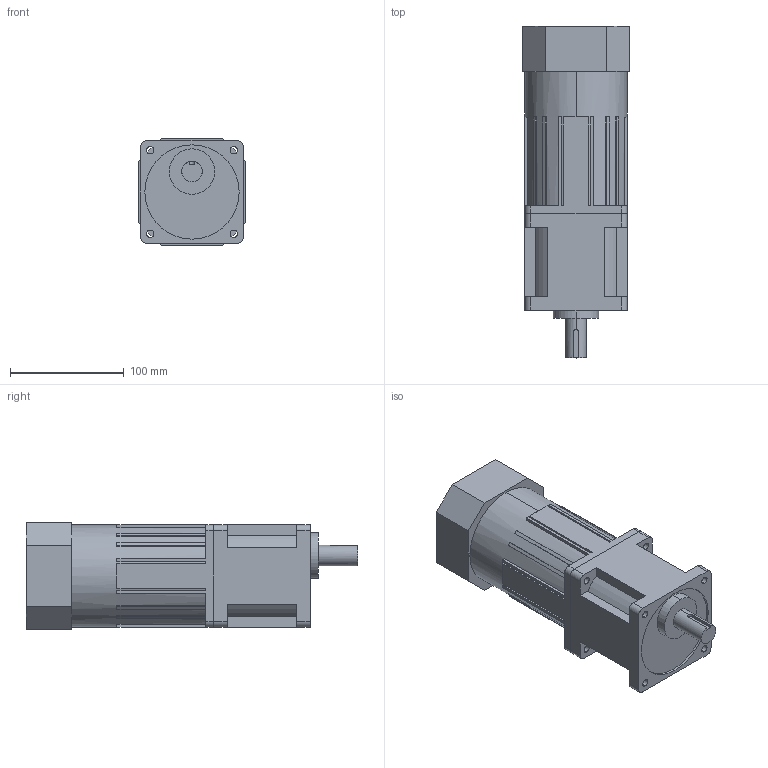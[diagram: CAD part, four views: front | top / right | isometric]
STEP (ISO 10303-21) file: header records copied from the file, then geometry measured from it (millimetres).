
FILE_DESCRIPTION (( 'STEP AP203' ), '1' );
FILE_NAME ('L9UK003B + L9R60PBHE.STEP', '2018-09-20T05:42:41', ( '' ), ( '' ), 'SwSTEP 2.0', 'SolidWorks 2017', '' );
FILE_SCHEMA (( 'CONFIG_CONTROL_DESIGN' ));
Length unit declared in the file: millimetre
Products named in the file (1): L9UK003B + L9R60PBHE
Bounding box: 94 x 292 x 94 mm (x, y, z)
Volume: 1747659.8 mm3; surface area: 126463.8 mm2
Topology: 2 solids, 2 shells, 176 faces, 498 edges, 330 vertices
Faces by surface type: plane 127, cylinder 49
Entity records: 5862 total; most frequent: CARTESIAN_POINT 1035, ORIENTED_EDGE 996, DIRECTION 989, EDGE_CURVE 498, LINE 357, VECTOR 357, VERTEX_POINT 330, AXIS2_PLACEMENT_3D 316
